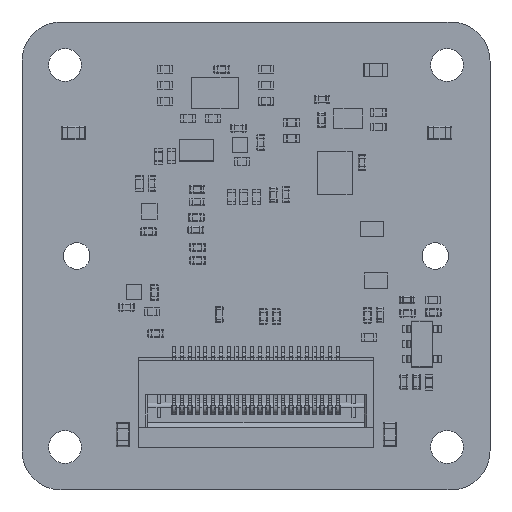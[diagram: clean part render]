
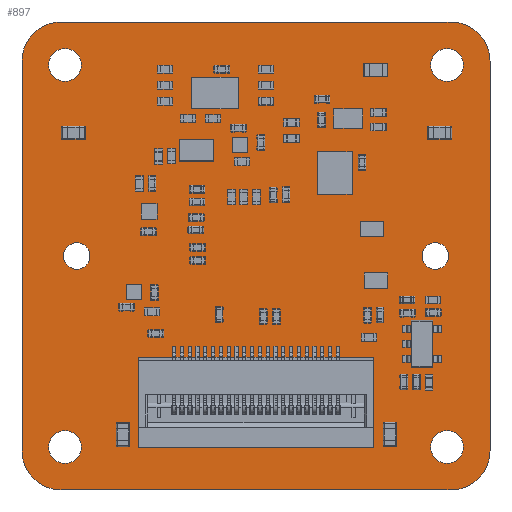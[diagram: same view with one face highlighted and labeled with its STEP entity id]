
A CAD part, top view. The second image highlights one B-rep face of the part: STEP entity #897.
In plain terms, the highlighted planar face has unit normal (0, 0, 1).
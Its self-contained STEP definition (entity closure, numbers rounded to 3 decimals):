
#416 = VERTEX_POINT('',#417);
#417 = CARTESIAN_POINT('',(0.,2.5,1.002));
#423 = EDGE_CURVE('',#416,#424,#426,.T.);
#424 = VERTEX_POINT('',#425);
#425 = CARTESIAN_POINT('',(-0.006,27.5,1.002));
#426 = LINE('',#427,#428);
#427 = CARTESIAN_POINT('',(0.,2.5,1.002));
#428 = VECTOR('',#429,1.);
#429 = DIRECTION('',(0.,1.,0.));
#454 = EDGE_CURVE('',#424,#455,#457,.T.);
#455 = VERTEX_POINT('',#456);
#456 = CARTESIAN_POINT('',(2.5,30.,1.002));
#457 = CIRCLE('',#458,2.496);
#458 = AXIS2_PLACEMENT_3D('',#459,#460,#461);
#459 = CARTESIAN_POINT('',(2.49,27.504,1.002));
#460 = DIRECTION('',(0.,0.,-1.));
#461 = DIRECTION('',(-1.,-0.002,0.));
#487 = EDGE_CURVE('',#455,#488,#490,.T.);
#488 = VERTEX_POINT('',#489);
#489 = CARTESIAN_POINT('',(27.5,30.,1.002));
#490 = LINE('',#491,#492);
#491 = CARTESIAN_POINT('',(2.5,30.,1.002));
#492 = VECTOR('',#493,1.);
#493 = DIRECTION('',(1.,0.,0.));
#518 = EDGE_CURVE('',#488,#519,#521,.T.);
#519 = VERTEX_POINT('',#520);
#520 = CARTESIAN_POINT('',(30.,27.5,1.002));
#521 = CIRCLE('',#522,2.499);
#522 = AXIS2_PLACEMENT_3D('',#523,#524,#525);
#523 = CARTESIAN_POINT('',(27.501,27.501,1.002));
#524 = DIRECTION('',(0.,0.,-1.));
#525 = DIRECTION('',(0.,1.,0.));
#551 = EDGE_CURVE('',#519,#552,#554,.T.);
#552 = VERTEX_POINT('',#553);
#553 = CARTESIAN_POINT('',(30.,2.5,1.002));
#554 = LINE('',#555,#556);
#555 = CARTESIAN_POINT('',(30.,27.5,1.002));
#556 = VECTOR('',#557,1.);
#557 = DIRECTION('',(0.,-1.,0.));
#582 = EDGE_CURVE('',#552,#583,#585,.T.);
#583 = VERTEX_POINT('',#584);
#584 = CARTESIAN_POINT('',(27.5,0.,1.002));
#585 = CIRCLE('',#586,2.499);
#586 = AXIS2_PLACEMENT_3D('',#587,#588,#589);
#587 = CARTESIAN_POINT('',(27.501,2.499,1.002));
#588 = DIRECTION('',(0.,0.,-1.));
#589 = DIRECTION('',(1.,0.,0.));
#615 = EDGE_CURVE('',#583,#616,#618,.T.);
#616 = VERTEX_POINT('',#617);
#617 = CARTESIAN_POINT('',(2.5,0.,1.002));
#618 = LINE('',#619,#620);
#619 = CARTESIAN_POINT('',(27.5,0.,1.002));
#620 = VECTOR('',#621,1.);
#621 = DIRECTION('',(-1.,0.,0.));
#646 = EDGE_CURVE('',#616,#416,#647,.T.);
#647 = CIRCLE('',#648,2.499);
#648 = AXIS2_PLACEMENT_3D('',#649,#650,#651);
#649 = CARTESIAN_POINT('',(2.499,2.499,1.002));
#650 = DIRECTION('',(0.,0.,-1.));
#651 = DIRECTION('',(0.,-1.,0.));
#672 = VERTEX_POINT('',#673);
#673 = CARTESIAN_POINT('',(3.8,2.75,1.002));
#679 = EDGE_CURVE('',#672,#672,#680,.T.);
#680 = CIRCLE('',#681,1.05);
#681 = AXIS2_PLACEMENT_3D('',#682,#683,#684);
#682 = CARTESIAN_POINT('',(2.75,2.75,1.002));
#683 = DIRECTION('',(0.,0.,1.));
#684 = DIRECTION('',(1.,0.,0.));
#705 = VERTEX_POINT('',#706);
#706 = CARTESIAN_POINT('',(3.8,27.25,1.002));
#712 = EDGE_CURVE('',#705,#705,#713,.T.);
#713 = CIRCLE('',#714,1.05);
#714 = AXIS2_PLACEMENT_3D('',#715,#716,#717);
#715 = CARTESIAN_POINT('',(2.75,27.25,1.002));
#716 = DIRECTION('',(0.,0.,1.));
#717 = DIRECTION('',(1.,0.,0.));
#738 = VERTEX_POINT('',#739);
#739 = CARTESIAN_POINT('',(4.35,15.,1.002));
#745 = EDGE_CURVE('',#738,#738,#746,.T.);
#746 = CIRCLE('',#747,0.85);
#747 = AXIS2_PLACEMENT_3D('',#748,#749,#750);
#748 = CARTESIAN_POINT('',(3.5,15.,1.002));
#749 = DIRECTION('',(0.,0.,1.));
#750 = DIRECTION('',(1.,0.,0.));
#771 = VERTEX_POINT('',#772);
#772 = CARTESIAN_POINT('',(28.3,2.75,1.002));
#778 = EDGE_CURVE('',#771,#771,#779,.T.);
#779 = CIRCLE('',#780,1.05);
#780 = AXIS2_PLACEMENT_3D('',#781,#782,#783);
#781 = CARTESIAN_POINT('',(27.25,2.75,1.002));
#782 = DIRECTION('',(0.,0.,1.));
#783 = DIRECTION('',(1.,0.,0.));
#804 = VERTEX_POINT('',#805);
#805 = CARTESIAN_POINT('',(27.35,15.,1.002));
#811 = EDGE_CURVE('',#804,#804,#812,.T.);
#812 = CIRCLE('',#813,0.85);
#813 = AXIS2_PLACEMENT_3D('',#814,#815,#816);
#814 = CARTESIAN_POINT('',(26.5,15.,1.002));
#815 = DIRECTION('',(0.,0.,1.));
#816 = DIRECTION('',(1.,0.,0.));
#837 = VERTEX_POINT('',#838);
#838 = CARTESIAN_POINT('',(28.3,27.25,1.002));
#844 = EDGE_CURVE('',#837,#837,#845,.T.);
#845 = CIRCLE('',#846,1.05);
#846 = AXIS2_PLACEMENT_3D('',#847,#848,#849);
#847 = CARTESIAN_POINT('',(27.25,27.25,1.002));
#848 = DIRECTION('',(0.,0.,1.));
#849 = DIRECTION('',(1.,0.,0.));
#897 = ADVANCED_FACE('',(#898,#908,#911,#914,#917,#920,#923),#926,.T.);
#898 = FACE_BOUND('',#899,.F.);
#899 = EDGE_LOOP('',(#900,#901,#902,#903,#904,#905,#906,#907));
#900 = ORIENTED_EDGE('',*,*,#423,.T.);
#901 = ORIENTED_EDGE('',*,*,#454,.T.);
#902 = ORIENTED_EDGE('',*,*,#487,.T.);
#903 = ORIENTED_EDGE('',*,*,#518,.T.);
#904 = ORIENTED_EDGE('',*,*,#551,.T.);
#905 = ORIENTED_EDGE('',*,*,#582,.T.);
#906 = ORIENTED_EDGE('',*,*,#615,.T.);
#907 = ORIENTED_EDGE('',*,*,#646,.T.);
#908 = FACE_BOUND('',#909,.T.);
#909 = EDGE_LOOP('',(#910));
#910 = ORIENTED_EDGE('',*,*,#679,.F.);
#911 = FACE_BOUND('',#912,.T.);
#912 = EDGE_LOOP('',(#913));
#913 = ORIENTED_EDGE('',*,*,#712,.F.);
#914 = FACE_BOUND('',#915,.T.);
#915 = EDGE_LOOP('',(#916));
#916 = ORIENTED_EDGE('',*,*,#745,.F.);
#917 = FACE_BOUND('',#918,.T.);
#918 = EDGE_LOOP('',(#919));
#919 = ORIENTED_EDGE('',*,*,#778,.F.);
#920 = FACE_BOUND('',#921,.T.);
#921 = EDGE_LOOP('',(#922));
#922 = ORIENTED_EDGE('',*,*,#811,.F.);
#923 = FACE_BOUND('',#924,.T.);
#924 = EDGE_LOOP('',(#925));
#925 = ORIENTED_EDGE('',*,*,#844,.F.);
#926 = PLANE('',#927);
#927 = AXIS2_PLACEMENT_3D('',#928,#929,#930);
#928 = CARTESIAN_POINT('',(0.,2.5,1.002));
#929 = DIRECTION('',(0.,0.,1.));
#930 = DIRECTION('',(1.,0.,0.));
